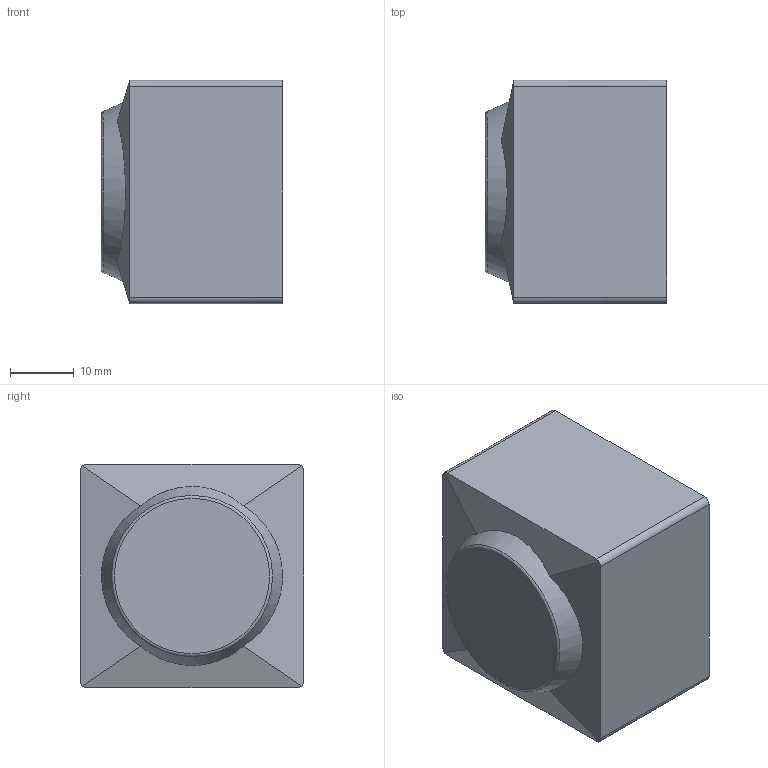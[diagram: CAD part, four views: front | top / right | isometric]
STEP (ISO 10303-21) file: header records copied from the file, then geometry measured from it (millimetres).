
FILE_DESCRIPTION(/* description */ (''),/* implementation_level */ '2;1');
FILE_NAME(/* name */ '\\SYNOLOGYNAS\web\db2\PR14-3030\도면\DR_PR14-3030.stp',/* time_stamp */ '2022-12-14T13:07:49+09:00',/* author */ ('user'),/* organization */ (''),/* preprocessor_version */ 'ST-DEVELOPER v15.6',/* originating_system */ 'Autodesk Inventor 2015',/* authorisation */ '');
FILE_SCHEMA (('AUTOMOTIVE_DESIGN { 1 0 10303 214 3 1 1 }'));
Length unit declared in the file: millimetre
Products named in the file (1): DR_PR14-3030
Bounding box: 28.5 x 35 x 35 mm (x, y, z)
Volume: 12979.6 mm3; surface area: 8625.5 mm2
Topology: 1 solids, 1 shells, 21 faces, 53 edges, 35 vertices
Faces by surface type: plane 15, cylinder 4, torus 1, cone 1
Entity records: 642 total; most frequent: DIRECTION 112, CARTESIAN_POINT 106, ORIENTED_EDGE 100, EDGE_CURVE 50, AXIS2_PLACEMENT_3D 40, VERTEX_POINT 34, LINE 32, VECTOR 32
